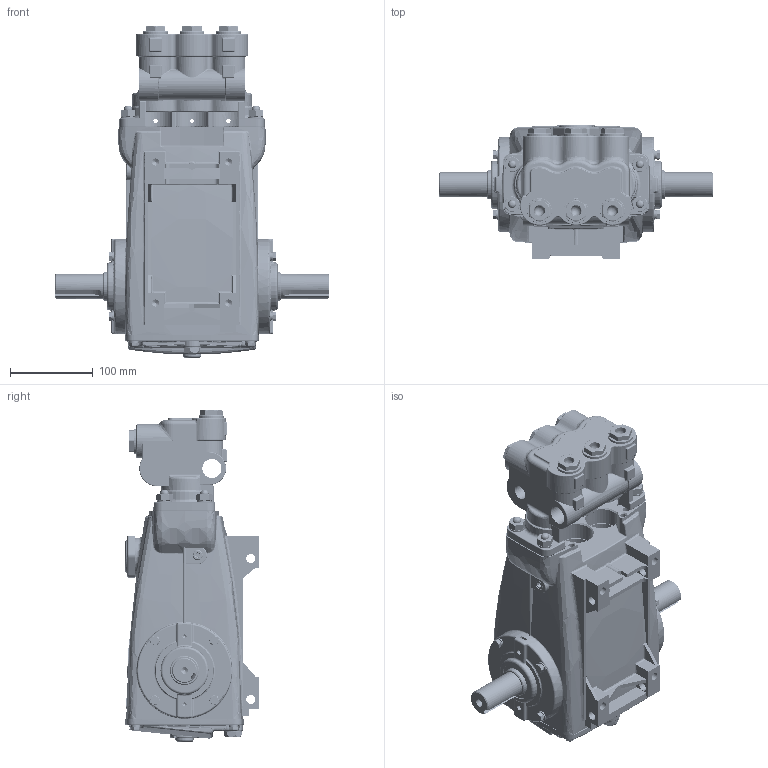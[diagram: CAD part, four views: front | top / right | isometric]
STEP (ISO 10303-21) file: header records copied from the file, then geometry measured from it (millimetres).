
FILE_DESCRIPTION (( 'STEP AP214' ), '1' );
FILE_NAME ('650.STEP', '2012-12-17T12:30:37', ( '' ), ( '' ), 'SwSTEP 2.0', 'SolidWorks 2012', '' );
FILE_SCHEMA (( 'AUTOMOTIVE_DESIGN' ));
Length unit declared in the file: millimetre
Products named in the file (1): 650
Bounding box: 330 x 162 x 400.3 mm (x, y, z)
Volume: 3728636.6 mm3; surface area: 760374.6 mm2
Topology: 1 solids, 27 shells, 4746 faces, 12025 edges, 7441 vertices
Faces by surface type: plane 1651, cylinder 1331, bspline 762, torus 672, cone 214, sphere 116
Entity records: 226625 total; most frequent: CARTESIAN_POINT 78661, ORIENTED_EDGE 23688, DIRECTION 21564, EDGE_CURVE 11844, AXIS2_PLACEMENT_3D 8189, VERTEX_POINT 7405, LINE 5186, VECTOR 5186
